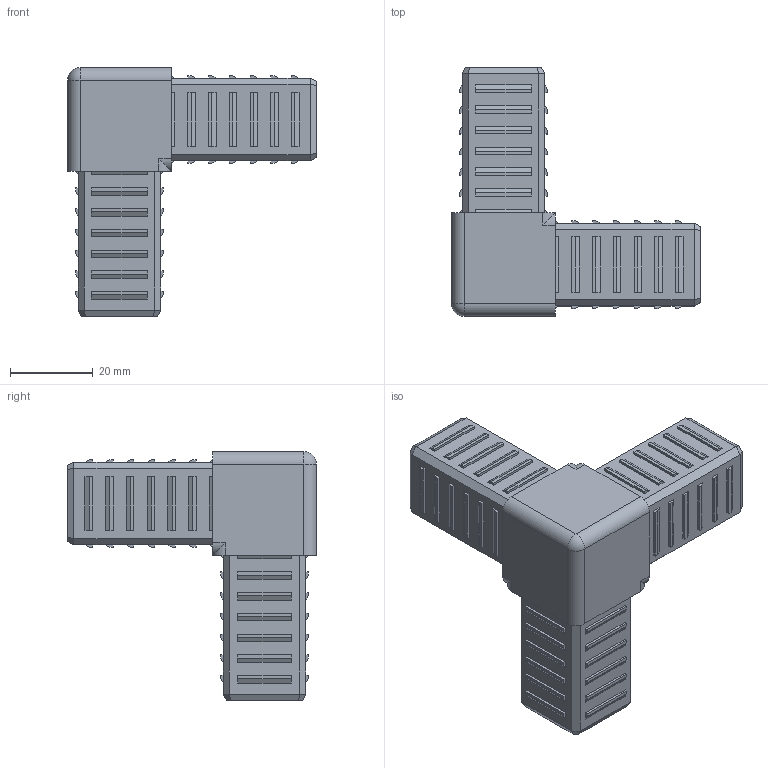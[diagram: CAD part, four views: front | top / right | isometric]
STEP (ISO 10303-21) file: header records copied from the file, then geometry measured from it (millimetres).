
FILE_DESCRIPTION (( 'STEP AP203' ), '1' );
FILE_NAME ('013.025.103.STEP', '2020-09-18T14:47:46', ( '' ), ( '' ), 'SwSTEP 2.0', 'SolidWorks 2018', '' );
FILE_SCHEMA (( 'CONFIG_CONTROL_DESIGN' ));
Length unit declared in the file: millimetre
Products named in the file (1): 013.025.103
Bounding box: 60 x 60 x 60 mm (x, y, z)
Volume: 31245.5 mm3; surface area: 24535.9 mm2
Topology: 1 solids, 1 shells, 526 faces, 1328 edges, 870 vertices
Faces by surface type: plane 498, cylinder 26, sphere 2
Entity records: 15505 total; most frequent: CARTESIAN_POINT 2759, ORIENTED_EDGE 2652, DIRECTION 2402, EDGE_CURVE 1326, LINE 1280, VECTOR 1280, VERTEX_POINT 870, EDGE_LOOP 604
